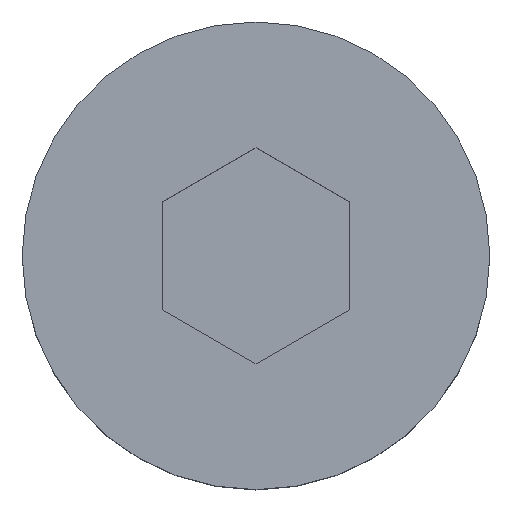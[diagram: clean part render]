
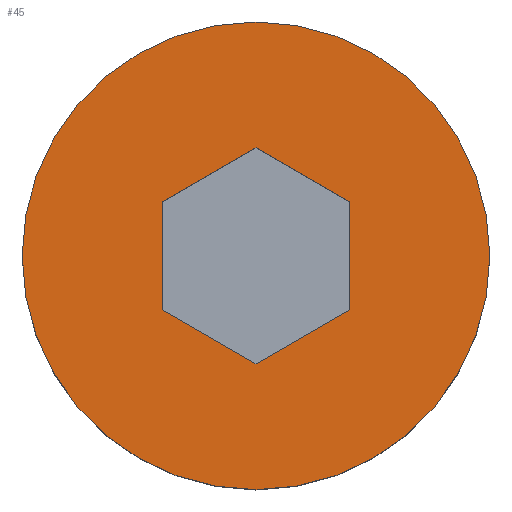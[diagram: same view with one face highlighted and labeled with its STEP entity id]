
A CAD part, top view. The second image highlights one B-rep face of the part: STEP entity #45.
In plain terms, the highlighted planar face has unit normal (0, 0, 1).
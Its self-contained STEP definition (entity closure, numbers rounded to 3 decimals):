
#13 = VERTEX_POINT ( 'NONE', #696 ) ;
#21 = CARTESIAN_POINT ( 'NONE',  ( 5.5, -7.794, 8. ) ) ;
#24 = VECTOR ( 'NONE', #283, 1000. ) ;
#30 = AXIS2_PLACEMENT_3D ( 'NONE', #316, #310, #302 ) ;
#45 = ADVANCED_FACE ( 'NONE', ( #576, #1185 ), #531, .F. ) ;
#52 = AXIS2_PLACEMENT_3D ( 'NONE', #595, #590, #840 ) ;
#54 = DIRECTION ( 'NONE',  ( 0., 0., -1. ) ) ;
#72 = CARTESIAN_POINT ( 'NONE',  ( 10., 0., 8. ) ) ;
#118 = ORIENTED_EDGE ( 'NONE', *, *, #647, .F. ) ;
#120 = CARTESIAN_POINT ( 'NONE',  ( 9.5, 0.866, 8. ) ) ;
#192 = CIRCLE ( 'NONE', #52, 10. ) ;
#244 = VERTEX_POINT ( 'NONE', #726 ) ;
#262 = VERTEX_POINT ( 'NONE', #729 ) ;
#265 = DIRECTION ( 'NONE',  ( 0., -1., 0. ) ) ;
#272 = CARTESIAN_POINT ( 'NONE',  ( -4., 0., 8. ) ) ;
#278 = DIRECTION ( 'NONE',  ( 0., 1., 0. ) ) ;
#283 = DIRECTION ( 'NONE',  ( 0.866, 0.5, 0. ) ) ;
#291 = DIRECTION ( 'NONE',  ( -0.866, 0.5, 0. ) ) ;
#294 = VERTEX_POINT ( 'NONE', #745 ) ;
#302 = DIRECTION ( 'NONE',  ( 1., 0., 0. ) ) ;
#310 = DIRECTION ( 'NONE',  ( 0., 0., 1. ) ) ;
#316 = CARTESIAN_POINT ( 'NONE',  ( 0., 0., 8. ) ) ;
#324 = CARTESIAN_POINT ( 'NONE',  ( 4., -2.309, 8. ) ) ;
#357 = CARTESIAN_POINT ( 'NONE',  ( 9.5, -0.866, 8. ) ) ;
#359 = CARTESIAN_POINT ( 'NONE',  ( 4., 0., 8. ) ) ;
#379 = DIRECTION ( 'NONE',  ( -0.866, -0.5, 0. ) ) ;
#385 = CARTESIAN_POINT ( 'NONE',  ( 5.5, 7.794, 8. ) ) ;
#501 = DIRECTION ( 'NONE',  ( 0.866, -0.5, 0. ) ) ;
#514 = AXIS2_PLACEMENT_3D ( 'NONE', #72, #54, #1194 ) ;
#531 = PLANE ( 'NONE',  #514 ) ;
#576 = FACE_OUTER_BOUND ( 'NONE', #965, .T. ) ;
#590 = DIRECTION ( 'NONE',  ( 0., 0., 1. ) ) ;
#595 = CARTESIAN_POINT ( 'NONE',  ( 0., 0., 8. ) ) ;
#602 = EDGE_CURVE ( 'NONE', #244, #294, #192, .T. ) ;
#610 = ORIENTED_EDGE ( 'NONE', *, *, #643, .F. ) ;
#629 = ORIENTED_EDGE ( 'NONE', *, *, #602, .T. ) ;
#641 = EDGE_CURVE ( 'NONE', #294, #244, #1188, .T. ) ;
#643 = EDGE_CURVE ( 'NONE', #1068, #1027, #1180, .T. ) ;
#647 = EDGE_CURVE ( 'NONE', #262, #1068, #1170, .T. ) ;
#649 = EDGE_CURVE ( 'NONE', #853, #262, #1167, .T. ) ;
#657 = EDGE_CURVE ( 'NONE', #13, #853, #1151, .T. ) ;
#665 = EDGE_CURVE ( 'NONE', #1067, #13, #1130, .T. ) ;
#695 = EDGE_CURVE ( 'NONE', #1027, #1067, #1115, .T. ) ;
#696 = CARTESIAN_POINT ( 'NONE',  ( 0., -4.619, 8. ) ) ;
#726 = CARTESIAN_POINT ( 'NONE',  ( 10., 0., 8. ) ) ;
#729 = CARTESIAN_POINT ( 'NONE',  ( 4., 2.309, 8. ) ) ;
#745 = CARTESIAN_POINT ( 'NONE',  ( -10., 0., 8. ) ) ;
#814 = ORIENTED_EDGE ( 'NONE', *, *, #649, .F. ) ;
#826 = ORIENTED_EDGE ( 'NONE', *, *, #641, .T. ) ;
#840 = DIRECTION ( 'NONE',  ( 1., 0., 0. ) ) ;
#852 = ORIENTED_EDGE ( 'NONE', *, *, #657, .F. ) ;
#853 = VERTEX_POINT ( 'NONE', #324 ) ;
#887 = ORIENTED_EDGE ( 'NONE', *, *, #665, .F. ) ;
#902 = ORIENTED_EDGE ( 'NONE', *, *, #695, .F. ) ;
#929 = EDGE_LOOP ( 'NONE', ( #610, #118, #814, #852, #887, #902 ) ) ;
#947 = CARTESIAN_POINT ( 'NONE',  ( 0., 4.619, 8. ) ) ;
#965 = EDGE_LOOP ( 'NONE', ( #629, #826 ) ) ;
#1011 = VECTOR ( 'NONE', #265, 1000. ) ;
#1013 = VECTOR ( 'NONE', #501, 1000. ) ;
#1027 = VERTEX_POINT ( 'NONE', #1125 ) ;
#1038 = CARTESIAN_POINT ( 'NONE',  ( -4., -2.309, 8. ) ) ;
#1067 = VERTEX_POINT ( 'NONE', #1038 ) ;
#1068 = VERTEX_POINT ( 'NONE', #947 ) ;
#1115 = LINE ( 'NONE', #272, #1011 ) ;
#1125 = CARTESIAN_POINT ( 'NONE',  ( -4., 2.309, 8. ) ) ;
#1130 = LINE ( 'NONE', #21, #1013 ) ;
#1134 = VECTOR ( 'NONE', #278, 1000. ) ;
#1149 = VECTOR ( 'NONE', #291, 1000. ) ;
#1151 = LINE ( 'NONE', #120, #24 ) ;
#1163 = VECTOR ( 'NONE', #379, 1000. ) ;
#1167 = LINE ( 'NONE', #359, #1134 ) ;
#1170 = LINE ( 'NONE', #357, #1149 ) ;
#1180 = LINE ( 'NONE', #385, #1163 ) ;
#1185 = FACE_BOUND ( 'NONE', #929, .T. ) ;
#1188 = CIRCLE ( 'NONE', #30, 10. ) ;
#1194 = DIRECTION ( 'NONE',  ( -1., 0., 0. ) ) ;
